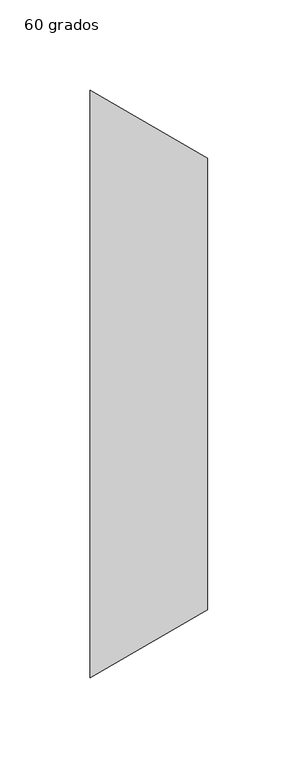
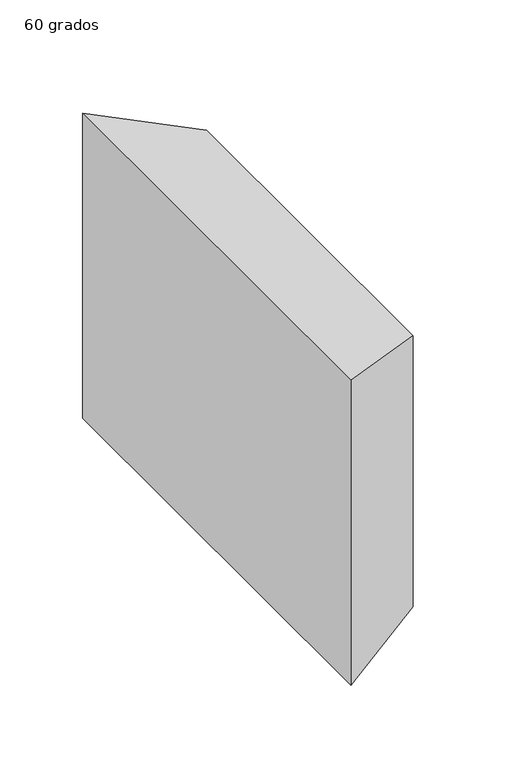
"""IFC4 building model written with IfcOpenShell, lengths in millimetres: duct fitting geometry, M_Transición rectangular - Ángulo : 60 grados."""

from ifc_helpers import new_model, si_unit, origin, place, context, project, spatial, faceted_brep, source, transform, mapped, element, save


def duct_fitting_60_grados_8c5d9171(model_context):
    return source(origin(), model_context, "Body", "Brep", [
        faceted_brep([(64.9519053, -125.0, 100.0363327), (64.9519053, -125.0, -99.9636673), (64.9519053, 125.0, -99.9636673), (64.9519053, 125.0, 100.0363327), (0.0, -162.5, 112.5), (0.0, 162.5, 112.5), (0.0, 162.5, -112.5), (0.0, -162.5, -112.5)], [[[0, 1, 2, 3]], [[4, 5, 6, 7]], [[4, 7, 1, 0]], [[7, 6, 2, 1]], [[6, 5, 3, 2]], [[5, 4, 0, 3]]]),
    ])


if __name__ == "__main__":
    model = new_model("IFC4")
    model_context = context("Model", 3, world=origin())
    ifc_project = project(units=[si_unit("LENGTHUNIT", "METRE", prefix="MILLI")], contexts=[model_context])
    site = spatial("IfcSite", under=ifc_project)
    building = spatial("IfcBuilding", under=site)
    placement = place(None, origin())
    duct_fitting_60_grados_shape = duct_fitting_60_grados_8c5d9171(model_context)
    element("IfcDuctFitting", 1, ObjectType="M_Transición rectangular - Ángulo : 60 grados", at=placement, inside=building, context=model_context, shape_type="MappedRepresentation", body=[
        mapped(duct_fitting_60_grados_shape, transform((0.0, 0.0, 0.0), x_axis=(1.0, 0.0, 0.0), y_axis=(0.0, 1.0, 0.0), z_axis=(0.0, 0.0, 1.0))),
    ])
    save(model, "model.ifc")
